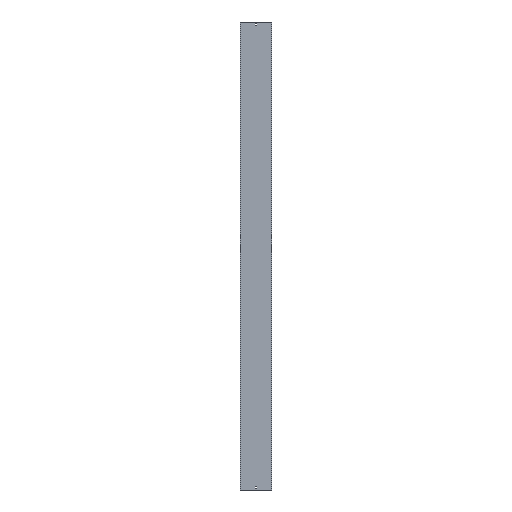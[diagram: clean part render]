
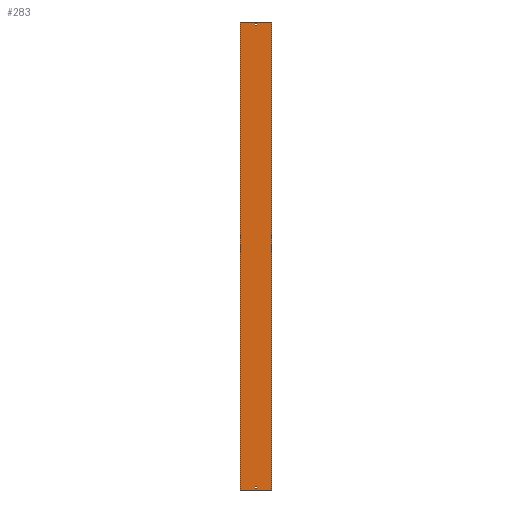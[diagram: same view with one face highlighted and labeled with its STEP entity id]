
A CAD part, front view. The second image highlights one B-rep face of the part: STEP entity #283.
In plain terms, the highlighted planar face has unit normal (0, -1, 0).
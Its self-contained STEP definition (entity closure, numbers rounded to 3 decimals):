
#2 = CARTESIAN_POINT ( 'NONE',  ( 100., -1.5, 1500. ) ) ;
#24 = EDGE_CURVE ( 'NONE', #522, #324, #93, .T. ) ;
#28 = VECTOR ( 'NONE', #518, 1000. ) ;
#29 = EDGE_CURVE ( 'NONE', #396, #522, #47, .T. ) ;
#37 = VERTEX_POINT ( 'NONE', #187 ) ;
#47 = LINE ( 'NONE', #498, #577 ) ;
#48 = EDGE_CURVE ( 'NONE', #165, #201, #379, .T. ) ;
#50 = CARTESIAN_POINT ( 'NONE',  ( 3.25, -1.5, -1488. ) ) ;
#53 = DIRECTION ( 'NONE',  ( 1., 0., 0. ) ) ;
#58 = LINE ( 'NONE', #241, #355 ) ;
#61 = EDGE_CURVE ( 'NONE', #37, #348, #371, .T. ) ;
#66 = EDGE_LOOP ( 'NONE', ( #291, #125, #204, #90 ) ) ;
#69 = VECTOR ( 'NONE', #267, 1000. ) ;
#90 = ORIENTED_EDGE ( 'NONE', *, *, #24, .T. ) ;
#93 = LINE ( 'NONE', #270, #69 ) ;
#95 = DIRECTION ( 'NONE',  ( -1., 0., 0. ) ) ;
#96 = CARTESIAN_POINT ( 'NONE',  ( -3.25, -1.5, 1500. ) ) ;
#99 = DIRECTION ( 'NONE',  ( 0., 0., 1. ) ) ;
#100 = DIRECTION ( 'NONE',  ( 0., 0., -1. ) ) ;
#125 = ORIENTED_EDGE ( 'NONE', *, *, #190, .T. ) ;
#130 = DIRECTION ( 'NONE',  ( 1., 0., 0. ) ) ;
#131 = VECTOR ( 'NONE', #135, 1000. ) ;
#134 = FACE_OUTER_BOUND ( 'NONE', #472, .T. ) ;
#135 = DIRECTION ( 'NONE',  ( 0., 0., 1. ) ) ;
#143 = ORIENTED_EDGE ( 'NONE', *, *, #399, .F. ) ;
#146 = DIRECTION ( 'NONE',  ( -1., 0., 0. ) ) ;
#150 = LINE ( 'NONE', #551, #508 ) ;
#154 = VECTOR ( 'NONE', #130, 1000. ) ;
#158 = LINE ( 'NONE', #248, #28 ) ;
#161 = EDGE_CURVE ( 'NONE', #348, #374, #169, .T. ) ;
#165 = VERTEX_POINT ( 'NONE', #311 ) ;
#169 = LINE ( 'NONE', #358, #154 ) ;
#172 = ORIENTED_EDGE ( 'NONE', *, *, #161, .F. ) ;
#173 = VERTEX_POINT ( 'NONE', #500 ) ;
#178 = CARTESIAN_POINT ( 'NONE',  ( 3.25, -1.5, 1500. ) ) ;
#181 = LINE ( 'NONE', #378, #554 ) ;
#182 = VECTOR ( 'NONE', #504, 1000. ) ;
#187 = CARTESIAN_POINT ( 'NONE',  ( -3.25, -1.5, 1488. ) ) ;
#190 = EDGE_CURVE ( 'NONE', #173, #396, #445, .T. ) ;
#194 = CARTESIAN_POINT ( 'NONE',  ( -3.25, -1.5, -1479. ) ) ;
#200 = EDGE_LOOP ( 'NONE', ( #480, #474, #353, #172 ) ) ;
#201 = VERTEX_POINT ( 'NONE', #265 ) ;
#204 = ORIENTED_EDGE ( 'NONE', *, *, #29, .T. ) ;
#209 = EDGE_CURVE ( 'NONE', #374, #216, #449, .T. ) ;
#216 = VERTEX_POINT ( 'NONE', #223 ) ;
#219 = VERTEX_POINT ( 'NONE', #2 ) ;
#223 = CARTESIAN_POINT ( 'NONE',  ( 3.25, -1.5, 1488. ) ) ;
#227 = LINE ( 'NONE', #549, #351 ) ;
#228 = EDGE_CURVE ( 'NONE', #216, #37, #181, .T. ) ;
#237 = AXIS2_PLACEMENT_3D ( 'NONE', #496, #444, #412 ) ;
#241 = CARTESIAN_POINT ( 'NONE',  ( -101.5, -1.5, -1488. ) ) ;
#245 = EDGE_CURVE ( 'NONE', #219, #165, #227, .T. ) ;
#246 = VECTOR ( 'NONE', #99, 1000. ) ;
#248 = CARTESIAN_POINT ( 'NONE',  ( 100., -1.5, 1500. ) ) ;
#263 = PLANE ( 'NONE',  #237 ) ;
#265 = CARTESIAN_POINT ( 'NONE',  ( -100., -1.5, -1500. ) ) ;
#267 = DIRECTION ( 'NONE',  ( 0., 0., -1. ) ) ;
#270 = CARTESIAN_POINT ( 'NONE',  ( 3.25, -1.5, 1500. ) ) ;
#276 = DIRECTION ( 'NONE',  ( -1., 0., 0. ) ) ;
#277 = VECTOR ( 'NONE', #100, 1000. ) ;
#283 = ADVANCED_FACE ( 'NONE', ( #316, #134, #537 ), #263, .T. ) ;
#291 = ORIENTED_EDGE ( 'NONE', *, *, #477, .T. ) ;
#298 = ORIENTED_EDGE ( 'NONE', *, *, #48, .T. ) ;
#311 = CARTESIAN_POINT ( 'NONE',  ( -100., -1.5, 1500. ) ) ;
#316 = FACE_BOUND ( 'NONE', #200, .T. ) ;
#324 = VERTEX_POINT ( 'NONE', #50 ) ;
#340 = DIRECTION ( 'NONE',  ( -1., 0., 0. ) ) ;
#346 = CARTESIAN_POINT ( 'NONE',  ( 100., -1.5, -1500. ) ) ;
#348 = VERTEX_POINT ( 'NONE', #546 ) ;
#351 = VECTOR ( 'NONE', #276, 1000. ) ;
#353 = ORIENTED_EDGE ( 'NONE', *, *, #209, .F. ) ;
#355 = VECTOR ( 'NONE', #146, 1000. ) ;
#358 = CARTESIAN_POINT ( 'NONE',  ( -101.5, -1.5, 1479. ) ) ;
#371 = LINE ( 'NONE', #96, #277 ) ;
#374 = VERTEX_POINT ( 'NONE', #415 ) ;
#378 = CARTESIAN_POINT ( 'NONE',  ( -101.5, -1.5, 1488. ) ) ;
#379 = LINE ( 'NONE', #383, #182 ) ;
#383 = CARTESIAN_POINT ( 'NONE',  ( -100., -1.5, 1500. ) ) ;
#396 = VERTEX_POINT ( 'NONE', #194 ) ;
#399 = EDGE_CURVE ( 'NONE', #548, #201, #150, .T. ) ;
#401 = ORIENTED_EDGE ( 'NONE', *, *, #543, .F. ) ;
#411 = CARTESIAN_POINT ( 'NONE',  ( -3.25, -1.5, 1500. ) ) ;
#412 = DIRECTION ( 'NONE',  ( 0., 0., -1. ) ) ;
#415 = CARTESIAN_POINT ( 'NONE',  ( 3.25, -1.5, 1479. ) ) ;
#444 = DIRECTION ( 'NONE',  ( 0., -1., 0. ) ) ;
#445 = LINE ( 'NONE', #411, #131 ) ;
#449 = LINE ( 'NONE', #178, #246 ) ;
#472 = EDGE_LOOP ( 'NONE', ( #143, #401, #588, #298 ) ) ;
#474 = ORIENTED_EDGE ( 'NONE', *, *, #228, .F. ) ;
#477 = EDGE_CURVE ( 'NONE', #324, #173, #58, .T. ) ;
#480 = ORIENTED_EDGE ( 'NONE', *, *, #61, .F. ) ;
#496 = CARTESIAN_POINT ( 'NONE',  ( -101.5, -1.5, 1500. ) ) ;
#498 = CARTESIAN_POINT ( 'NONE',  ( -101.5, -1.5, -1479. ) ) ;
#500 = CARTESIAN_POINT ( 'NONE',  ( -3.25, -1.5, -1488. ) ) ;
#504 = DIRECTION ( 'NONE',  ( 0., 0., -1. ) ) ;
#508 = VECTOR ( 'NONE', #340, 1000. ) ;
#518 = DIRECTION ( 'NONE',  ( 0., 0., -1. ) ) ;
#522 = VERTEX_POINT ( 'NONE', #523 ) ;
#523 = CARTESIAN_POINT ( 'NONE',  ( 3.25, -1.5, -1479. ) ) ;
#537 = FACE_BOUND ( 'NONE', #66, .T. ) ;
#543 = EDGE_CURVE ( 'NONE', #219, #548, #158, .T. ) ;
#546 = CARTESIAN_POINT ( 'NONE',  ( -3.25, -1.5, 1479. ) ) ;
#548 = VERTEX_POINT ( 'NONE', #346 ) ;
#549 = CARTESIAN_POINT ( 'NONE',  ( -101.5, -1.5, 1500. ) ) ;
#551 = CARTESIAN_POINT ( 'NONE',  ( -101.5, -1.5, -1500. ) ) ;
#554 = VECTOR ( 'NONE', #95, 1000. ) ;
#577 = VECTOR ( 'NONE', #53, 1000. ) ;
#588 = ORIENTED_EDGE ( 'NONE', *, *, #245, .T. ) ;
